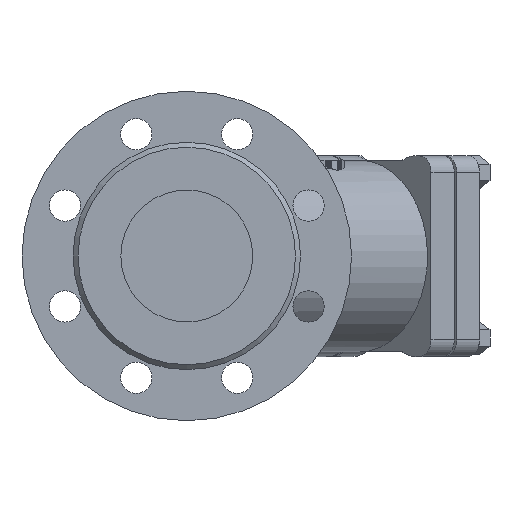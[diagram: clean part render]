
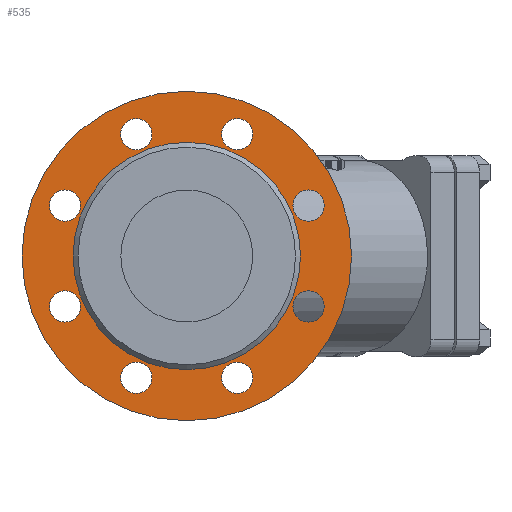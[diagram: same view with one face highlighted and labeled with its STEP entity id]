
A CAD part, left-side view. The second image highlights one B-rep face of the part: STEP entity #535.
In plain terms, the highlighted planar face has unit normal (-1, 0, 0).
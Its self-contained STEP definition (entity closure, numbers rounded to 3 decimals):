
#535=ADVANCED_FACE('',(#16805,#16807,#16809,#16811,#16813,#16815,#16817,#16819,#16821,
#16823),#16825,.T.);
#16805=FACE_BOUND('',#16806,.T.);
#16806=EDGE_LOOP('',(#24234,#24235));
#16807=FACE_BOUND('',#16808,.T.);
#16808=EDGE_LOOP('',(#24236));
#16809=FACE_BOUND('',#16810,.T.);
#16810=EDGE_LOOP('',(#24237));
#16811=FACE_BOUND('',#16812,.T.);
#16812=EDGE_LOOP('',(#24238));
#16813=FACE_BOUND('',#16814,.T.);
#16814=EDGE_LOOP('',(#24239));
#16815=FACE_BOUND('',#16816,.T.);
#16816=EDGE_LOOP('',(#24240));
#16817=FACE_BOUND('',#16818,.T.);
#16818=EDGE_LOOP('',(#24241));
#16819=FACE_BOUND('',#16820,.T.);
#16820=EDGE_LOOP('',(#24242));
#16821=FACE_BOUND('',#16822,.T.);
#16822=EDGE_LOOP('',(#24243));
#16823=FACE_BOUND('',#16824,.T.);
#16824=EDGE_LOOP('',(#24244,#24245));
#16825=PLANE('',#16826);
#16826=AXIS2_PLACEMENT_3D('',#16827,#16828,#16829);
#16827=CARTESIAN_POINT('',(8168.272,-544.652,-8.5));
#16828=DIRECTION('',(-1.,0.,0.));
#16829=DIRECTION('',(0.,0.,1.));
#24234=ORIENTED_EDGE('',*,*,#29620,.F.);
#24235=ORIENTED_EDGE('',*,*,#29621,.F.);
#24236=ORIENTED_EDGE('',*,*,#29601,.T.);
#24237=ORIENTED_EDGE('',*,*,#29603,.T.);
#24238=ORIENTED_EDGE('',*,*,#29605,.T.);
#24239=ORIENTED_EDGE('',*,*,#29607,.T.);
#24240=ORIENTED_EDGE('',*,*,#29609,.T.);
#24241=ORIENTED_EDGE('',*,*,#29611,.T.);
#24242=ORIENTED_EDGE('',*,*,#29613,.T.);
#24243=ORIENTED_EDGE('',*,*,#29599,.T.);
#24244=ORIENTED_EDGE('',*,*,#29619,.T.);
#24245=ORIENTED_EDGE('',*,*,#29618,.T.);
#29599=EDGE_CURVE('',#33219,#33219,#33220,.T.);
#29601=EDGE_CURVE('',#33223,#33223,#33224,.T.);
#29603=EDGE_CURVE('',#33227,#33227,#33228,.T.);
#29605=EDGE_CURVE('',#33231,#33231,#33232,.T.);
#29607=EDGE_CURVE('',#33235,#33235,#33236,.T.);
#29609=EDGE_CURVE('',#33239,#33239,#33240,.T.);
#29611=EDGE_CURVE('',#33243,#33243,#33244,.T.);
#29613=EDGE_CURVE('',#33247,#33247,#33248,.T.);
#29618=EDGE_CURVE('',#33257,#33258,#33259,.T.);
#29619=EDGE_CURVE('',#33258,#33257,#33260,.T.);
#29620=EDGE_CURVE('',#33261,#33262,#33263,.T.);
#29621=EDGE_CURVE('',#33262,#33261,#33264,.T.);
#33219=VERTEX_POINT('',#42165);
#33220=CIRCLE('',#42166,9.5);
#33223=VERTEX_POINT('',#42175);
#33224=CIRCLE('',#42176,9.5);
#33227=VERTEX_POINT('',#42185);
#33228=CIRCLE('',#42186,9.5);
#33231=VERTEX_POINT('',#42195);
#33232=CIRCLE('',#42196,9.5);
#33235=VERTEX_POINT('',#42205);
#33236=CIRCLE('',#42206,9.5);
#33239=VERTEX_POINT('',#42215);
#33240=CIRCLE('',#42216,9.5);
#33243=VERTEX_POINT('',#42225);
#33244=CIRCLE('',#42226,9.5);
#33247=VERTEX_POINT('',#42235);
#33248=CIRCLE('',#42236,9.5);
#33257=VERTEX_POINT('',#42260);
#33258=VERTEX_POINT('',#42261);
#33259=CIRCLE('',#42262,69.);
#33260=CIRCLE('',#42266,69.);
#33261=VERTEX_POINT('',#42270);
#33262=VERTEX_POINT('',#42271);
#33263=CIRCLE('',#42272,100.);
#33264=CIRCLE('',#42276,100.);
#42165=CARTESIAN_POINT('',(8168.272,-728.063,22.115));
#42166=AXIS2_PLACEMENT_3D('',#42167,#42168,#42169);
#42167=CARTESIAN_POINT('',(8168.272,-718.563,22.115));
#42168=DIRECTION('',(1.,0.,0.));
#42169=DIRECTION('',(0.,-1.,0.));
#42175=CARTESIAN_POINT('',(8168.272,-684.767,-82.41));
#42176=AXIS2_PLACEMENT_3D('',#42177,#42178,#42179);
#42177=CARTESIAN_POINT('',(8168.272,-675.267,-82.41));
#42178=DIRECTION('',(1.,0.,0.));
#42179=DIRECTION('',(0.,-1.,0.));
#42185=CARTESIAN_POINT('',(8168.272,-580.242,22.115));
#42186=AXIS2_PLACEMENT_3D('',#42187,#42188,#42189);
#42187=CARTESIAN_POINT('',(8168.272,-570.742,22.115));
#42188=DIRECTION('',(1.,0.,0.));
#42189=DIRECTION('',(0.,-1.,0.));
#42195=CARTESIAN_POINT('',(8168.272,-623.538,-82.41));
#42196=AXIS2_PLACEMENT_3D('',#42197,#42198,#42199);
#42197=CARTESIAN_POINT('',(8168.272,-614.038,-82.41));
#42198=DIRECTION('',(1.,0.,0.));
#42199=DIRECTION('',(0.,-1.,0.));
#42205=CARTESIAN_POINT('',(8168.272,-623.538,65.41));
#42206=AXIS2_PLACEMENT_3D('',#42207,#42208,#42209);
#42207=CARTESIAN_POINT('',(8168.272,-614.038,65.41));
#42208=DIRECTION('',(1.,0.,0.));
#42209=DIRECTION('',(0.,-1.,0.));
#42215=CARTESIAN_POINT('',(8168.272,-580.242,-39.115));
#42216=AXIS2_PLACEMENT_3D('',#42217,#42218,#42219);
#42217=CARTESIAN_POINT('',(8168.272,-570.742,-39.115));
#42218=DIRECTION('',(1.,0.,0.));
#42219=DIRECTION('',(0.,-1.,0.));
#42225=CARTESIAN_POINT('',(8168.272,-728.063,-39.115));
#42226=AXIS2_PLACEMENT_3D('',#42227,#42228,#42229);
#42227=CARTESIAN_POINT('',(8168.272,-718.563,-39.115));
#42228=DIRECTION('',(1.,0.,0.));
#42229=DIRECTION('',(0.,-1.,0.));
#42235=CARTESIAN_POINT('',(8168.272,-684.767,65.41));
#42236=AXIS2_PLACEMENT_3D('',#42237,#42238,#42239);
#42237=CARTESIAN_POINT('',(8168.272,-675.267,65.41));
#42238=DIRECTION('',(1.,0.,0.));
#42239=DIRECTION('',(0.,-1.,0.));
#42260=CARTESIAN_POINT('',(8168.272,-713.652,-8.5));
#42261=CARTESIAN_POINT('',(8168.272,-575.652,-8.5));
#42262=AXIS2_PLACEMENT_3D('',#42263,#42264,#42265);
#42263=CARTESIAN_POINT('',(8168.272,-644.652,-8.5));
#42264=DIRECTION('',(1.,0.,0.));
#42265=DIRECTION('',(0.,-1.,0.));
#42266=AXIS2_PLACEMENT_3D('',#42267,#42268,#42269);
#42267=CARTESIAN_POINT('',(8168.272,-644.652,-8.5));
#42268=DIRECTION('',(1.,0.,0.));
#42269=DIRECTION('',(0.,1.,0.));
#42270=CARTESIAN_POINT('',(8168.272,-744.652,-8.5));
#42271=CARTESIAN_POINT('',(8168.272,-544.652,-8.5));
#42272=AXIS2_PLACEMENT_3D('',#42273,#42274,#42275);
#42273=CARTESIAN_POINT('',(8168.272,-644.652,-8.5));
#42274=DIRECTION('',(1.,0.,0.));
#42275=DIRECTION('',(0.,-1.,0.));
#42276=AXIS2_PLACEMENT_3D('',#42277,#42278,#42279);
#42277=CARTESIAN_POINT('',(8168.272,-644.652,-8.5));
#42278=DIRECTION('',(1.,0.,0.));
#42279=DIRECTION('',(0.,1.,0.));
